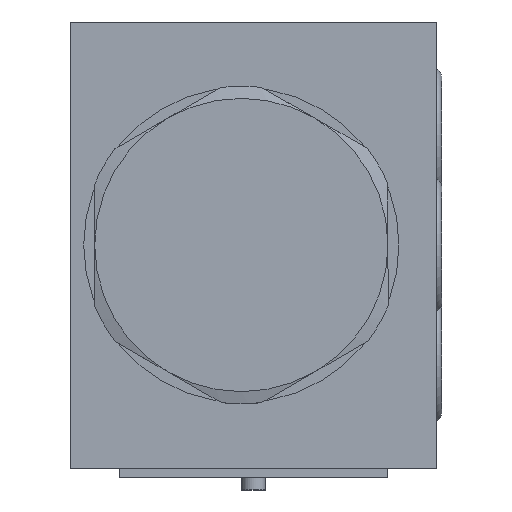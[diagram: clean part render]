
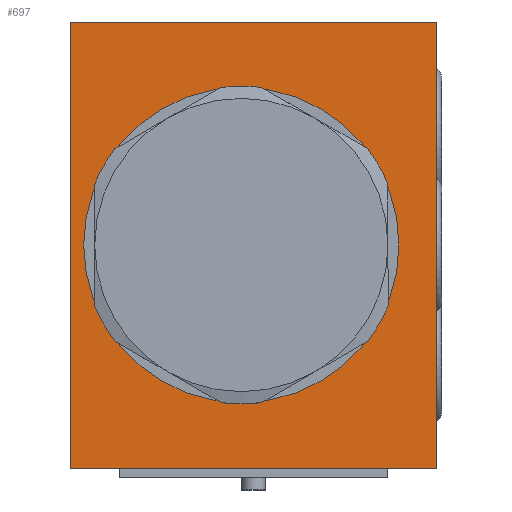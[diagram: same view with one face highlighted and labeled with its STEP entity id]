
A CAD part, left-side view. The second image highlights one B-rep face of the part: STEP entity #697.
In plain terms, the highlighted planar face has unit normal (-1, 0, 0).
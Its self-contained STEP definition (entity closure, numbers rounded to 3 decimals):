
#291=LINE('',#4912,#355);
#293=LINE('',#4918,#357);
#294=LINE('',#4920,#358);
#295=LINE('',#4922,#359);
#355=VECTOR('',#3013,1.);
#357=VECTOR('',#3019,1.);
#358=VECTOR('',#3020,1.);
#359=VECTOR('',#3021,1.);
#596=PLANE('',#2536);
#697=ADVANCED_FACE('',(#904,#905),#596,.F.);
#904=FACE_BOUND('',#1104,.T.);
#905=FACE_BOUND('',#1105,.T.);
#1104=EDGE_LOOP('',(#1501));
#1105=EDGE_LOOP('',(#1502,#1503,#1504,#1505));
#1501=ORIENTED_EDGE('',*,*,#2157,.T.);
#1502=ORIENTED_EDGE('',*,*,#2158,.T.);
#1503=ORIENTED_EDGE('',*,*,#2159,.F.);
#1504=ORIENTED_EDGE('',*,*,#2160,.F.);
#1505=ORIENTED_EDGE('',*,*,#2155,.T.);
#1911=VERTEX_POINT('',#4911);
#1912=VERTEX_POINT('',#4913);
#1913=VERTEX_POINT('',#4917);
#1914=VERTEX_POINT('',#4919);
#1915=VERTEX_POINT('',#4921);
#2155=EDGE_CURVE('',#1912,#1911,#291,.T.);
#2157=EDGE_CURVE('',#1913,#1913,#2331,.T.);
#2158=EDGE_CURVE('',#1911,#1914,#293,.T.);
#2159=EDGE_CURVE('',#1915,#1914,#294,.T.);
#2160=EDGE_CURVE('',#1912,#1915,#295,.T.);
#2331=CIRCLE('',#2535,12.9);
#2535=AXIS2_PLACEMENT_3D('',#4916,#3017,#3018);
#2536=AXIS2_PLACEMENT_3D('',#4923,#3022,#3023);
#3013=DIRECTION('',(0.,-1.,0.));
#3017=DIRECTION('',(1.,0.,0.));
#3018=DIRECTION('',(0.,1.,0.));
#3019=DIRECTION('',(0.,0.,1.));
#3020=DIRECTION('',(0.,-1.,0.));
#3021=DIRECTION('',(0.,0.,1.));
#3022=DIRECTION('',(1.,0.,0.));
#3023=DIRECTION('',(0.,0.,1.));
#4911=CARTESIAN_POINT('',(-41.5,-15.,-18.25));
#4912=CARTESIAN_POINT('',(-41.5,15.,-18.25));
#4913=CARTESIAN_POINT('',(-41.5,15.,-18.25));
#4916=CARTESIAN_POINT('',(-41.5,1.,0.));
#4917=CARTESIAN_POINT('',(-41.5,13.9,0.));
#4918=CARTESIAN_POINT('',(-41.5,-15.,18.25));
#4919=CARTESIAN_POINT('',(-41.5,-15.,18.25));
#4920=CARTESIAN_POINT('',(-41.5,15.,18.25));
#4921=CARTESIAN_POINT('',(-41.5,15.,18.25));
#4922=CARTESIAN_POINT('',(-41.5,15.,18.25));
#4923=CARTESIAN_POINT('',(-41.5,15.,18.25));
